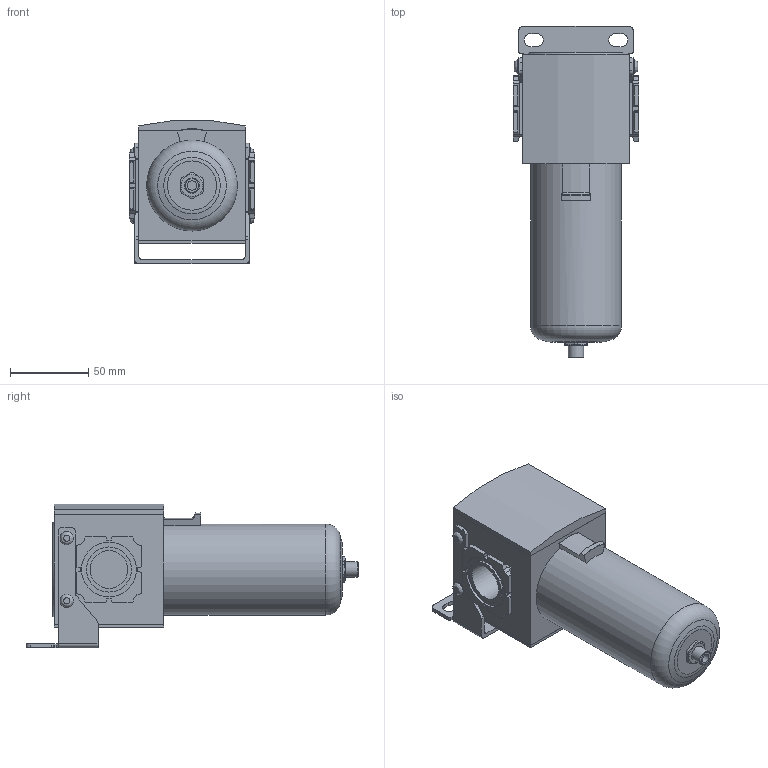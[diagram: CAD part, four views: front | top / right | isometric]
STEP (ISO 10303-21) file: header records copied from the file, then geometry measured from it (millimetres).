
FILE_DESCRIPTION( ( 'STEP AP214' ), '1' );
FILE_NAME( 'C:/Users/emc03072/Desktop/EAF/EAF4000-06D.stp', '2026-07-30T02:43:18', ( 'License CC BY-ND 4.0' ), ( 'CADENAS' ), ' ', 'PARTsolutions', ' ' );
FILE_SCHEMA( ( 'AUTOMOTIVE_DESIGN { 1 0 10303 214 1 1 1 1 }' ) );
Length unit declared in the file: millimetre
Products named in the file (2): EAF4000-06D; _EAF4000-06D-Body
Assembly tree (1 placements, depth 2):
  EAF4000-06D
    _EAF4000-06D-Body
Bounding box: 80 x 212.1 x 91.74 mm (x, y, z)
Volume: 686252.4 mm3; surface area: 67421.2 mm2
Topology: 1 solids, 1 shells, 308 faces, 839 edges, 550 vertices
Faces by surface type: plane 233, cylinder 53, torus 12, cone 6, bspline 4
Full cylindrical faces by diameter (mm): 6 x1, 8.5 x4, 9.728 x1, 24.117 x2, 28.8 x2, 35 x2, 58.094 x1
Entity records: 12086 total; most frequent: CARTESIAN_POINT 1800, ORIENTED_EDGE 1614, DIRECTION 1568, EDGE_CURVE 807, LINE 644, VECTOR 644, VERTEX_POINT 548, AXIS2_PLACEMENT_3D 462
